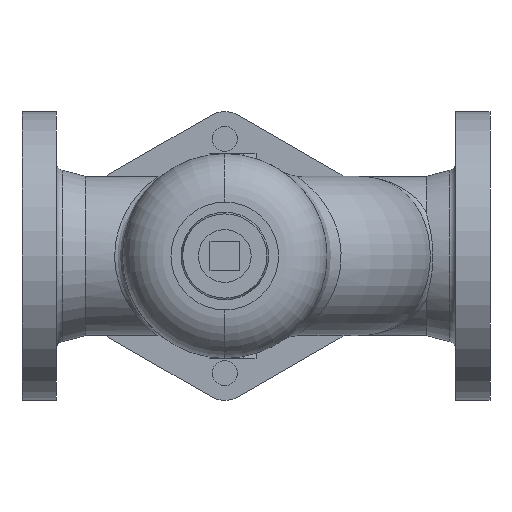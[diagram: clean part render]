
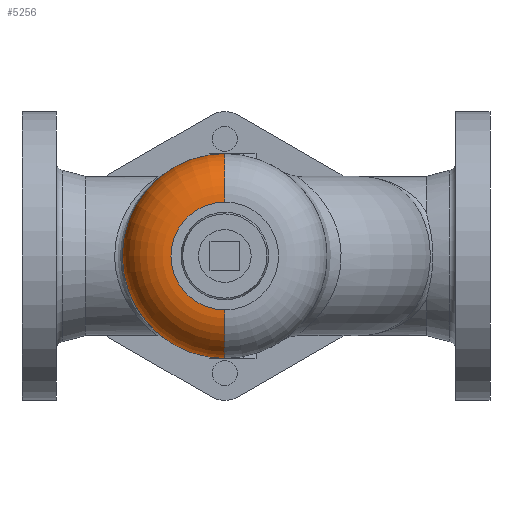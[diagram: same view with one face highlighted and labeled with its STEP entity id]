
A CAD part, front view. The second image highlights one B-rep face of the part: STEP entity #5256.
In plain terms, the highlighted toroidal (fillet/blend) face has major radius 34.5 mm and minor radius 31 mm.
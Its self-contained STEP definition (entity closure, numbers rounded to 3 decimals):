
#598 = AXIS2_PLACEMENT_3D ( 'NONE', #8711, #5015, #5787 ) ;
#739 = CARTESIAN_POINT ( 'NONE',  ( 0., -162.5, 65.5 ) ) ;
#1053 = DIRECTION ( 'NONE',  ( 0., 0., 1. ) ) ;
#1121 = DIRECTION ( 'NONE',  ( 0., 1., 0. ) ) ;
#1206 = ORIENTED_EDGE ( 'NONE', *, *, #8627, .F. ) ;
#1308 = DIRECTION ( 'NONE',  ( 0., 0., 1. ) ) ;
#1408 = CARTESIAN_POINT ( 'NONE',  ( 0., -162.5, -65.5 ) ) ;
#1546 = EDGE_CURVE ( 'NONE', #2044, #4379, #7425, .T. ) ;
#1881 = DIRECTION ( 'NONE',  ( 1., 0., 0. ) ) ;
#2044 = VERTEX_POINT ( 'NONE', #4434 ) ;
#2758 = DIRECTION ( 'NONE',  ( 0., 0., -1. ) ) ;
#2930 = EDGE_CURVE ( 'NONE', #2044, #7827, #5431, .T. ) ;
#3075 = CIRCLE ( 'NONE', #7911, 31. ) ;
#3404 = ORIENTED_EDGE ( 'NONE', *, *, #5064, .T. ) ;
#3730 = CARTESIAN_POINT ( 'NONE',  ( 0., -193.5, 34.5 ) ) ;
#4001 = ORIENTED_EDGE ( 'NONE', *, *, #1546, .F. ) ;
#4104 = DIRECTION ( 'NONE',  ( 0., 0., 1. ) ) ;
#4318 = TOROIDAL_SURFACE ( 'NONE', #8828, 34.5, 31. ) ;
#4379 = VERTEX_POINT ( 'NONE', #1408 ) ;
#4434 = CARTESIAN_POINT ( 'NONE',  ( 0., -193.5, -34.5 ) ) ;
#4915 = CARTESIAN_POINT ( 'NONE',  ( 0., -162.5, 0. ) ) ;
#4950 = CARTESIAN_POINT ( 'NONE',  ( 0., -162.5, -34.5 ) ) ;
#5015 = DIRECTION ( 'NONE',  ( 0., 1., 0. ) ) ;
#5064 = EDGE_CURVE ( 'NONE', #7827, #7496, #3075, .T. ) ;
#5256 = ADVANCED_FACE ( 'NONE', ( #7215 ), #4318, .T. ) ;
#5431 = CIRCLE ( 'NONE', #598, 34.5 ) ;
#5787 = DIRECTION ( 'NONE',  ( 0., 0., 1. ) ) ;
#6018 = AXIS2_PLACEMENT_3D ( 'NONE', #4950, #1881, #2758 ) ;
#6131 = DIRECTION ( 'NONE',  ( -1., 0., 0. ) ) ;
#6479 = DIRECTION ( 'NONE',  ( 0., 1., 0. ) ) ;
#6604 = ORIENTED_EDGE ( 'NONE', *, *, #2930, .T. ) ;
#6966 = CARTESIAN_POINT ( 'NONE',  ( 0., -162.5, 34.5 ) ) ;
#7165 = CIRCLE ( 'NONE', #8395, 65.5 ) ;
#7215 = FACE_OUTER_BOUND ( 'NONE', #8976, .T. ) ;
#7425 = CIRCLE ( 'NONE', #6018, 31. ) ;
#7496 = VERTEX_POINT ( 'NONE', #739 ) ;
#7827 = VERTEX_POINT ( 'NONE', #3730 ) ;
#7853 = CARTESIAN_POINT ( 'NONE',  ( 0., -162.5, 0. ) ) ;
#7911 = AXIS2_PLACEMENT_3D ( 'NONE', #6966, #6131, #1053 ) ;
#8395 = AXIS2_PLACEMENT_3D ( 'NONE', #7853, #1121, #4104 ) ;
#8627 = EDGE_CURVE ( 'NONE', #4379, #7496, #7165, .T. ) ;
#8711 = CARTESIAN_POINT ( 'NONE',  ( 0., -193.5, 0. ) ) ;
#8828 = AXIS2_PLACEMENT_3D ( 'NONE', #4915, #6479, #1308 ) ;
#8976 = EDGE_LOOP ( 'NONE', ( #4001, #6604, #3404, #1206 ) ) ;
